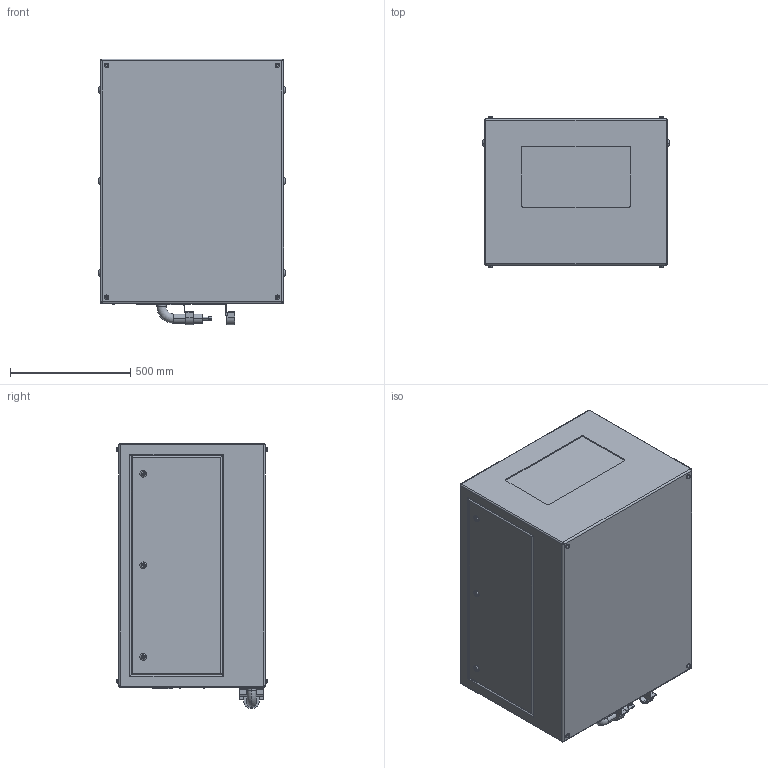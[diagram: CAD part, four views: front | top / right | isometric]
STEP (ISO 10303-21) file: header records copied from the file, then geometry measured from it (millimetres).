
FILE_DESCRIPTION (( 'STEP AP214' ), '1' );
FILE_NAME ('Oasis 59.100.L R02.STEP', '2022-09-12T23:31:55', ( '' ), ( '' ), 'SwSTEP 2.0', 'SolidWorks 2020', '' );
FILE_SCHEMA (( 'AUTOMOTIVE_DESIGN' ));
Length unit declared in the file: inch
Products named in the file (1): Oasis 59.100.L R02
Bounding box: 774.7 x 626.87 x 1104.9 mm (x, y, z)
Volume: 471347901 mm3; surface area: 4145648.3 mm2
Topology: 3 solids, 9 shells, 480 faces, 1099 edges, 696 vertices
Faces by surface type: plane 261, cylinder 169, torus 42, bspline 8
Entity records: 18195 total; most frequent: CARTESIAN_POINT 2788, DIRECTION 2391, ORIENTED_EDGE 2182, EDGE_CURVE 1091, AXIS2_PLACEMENT_3D 859, VERTEX_POINT 696, VECTOR 673, LINE 673
